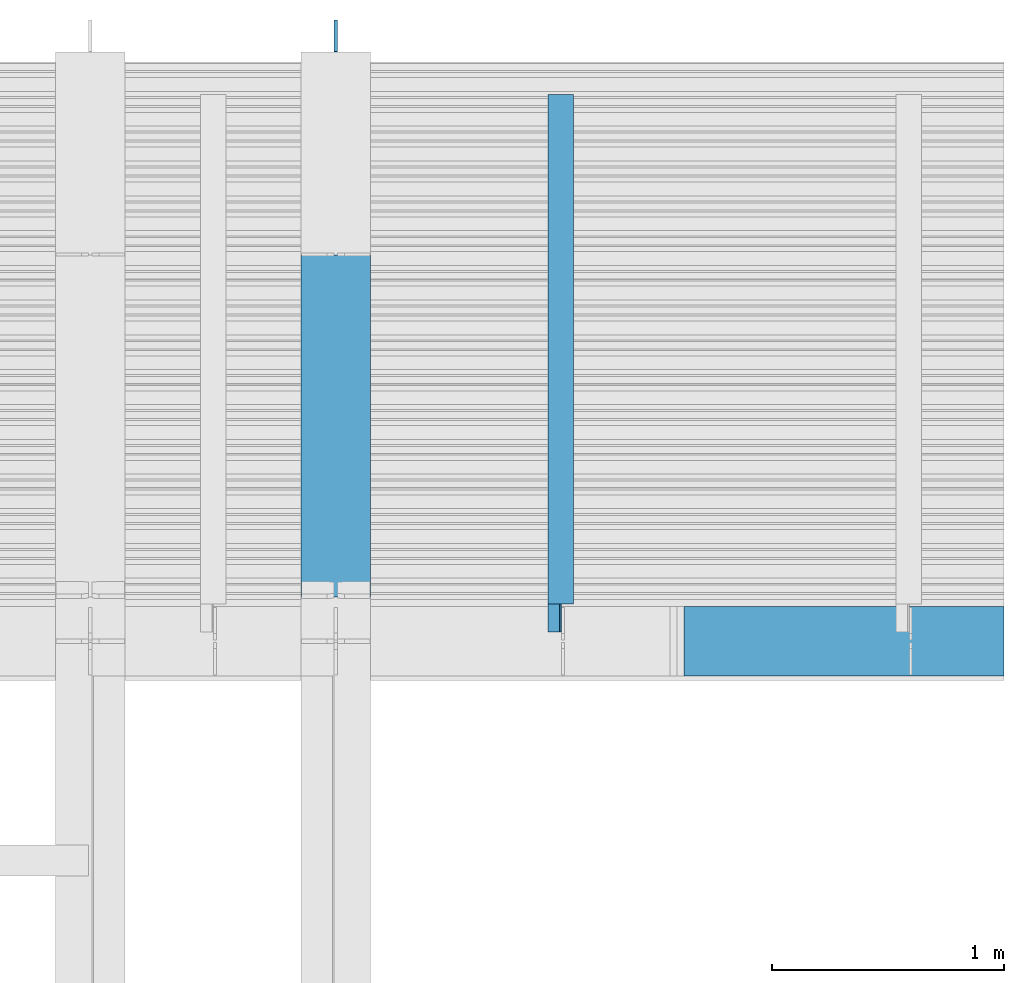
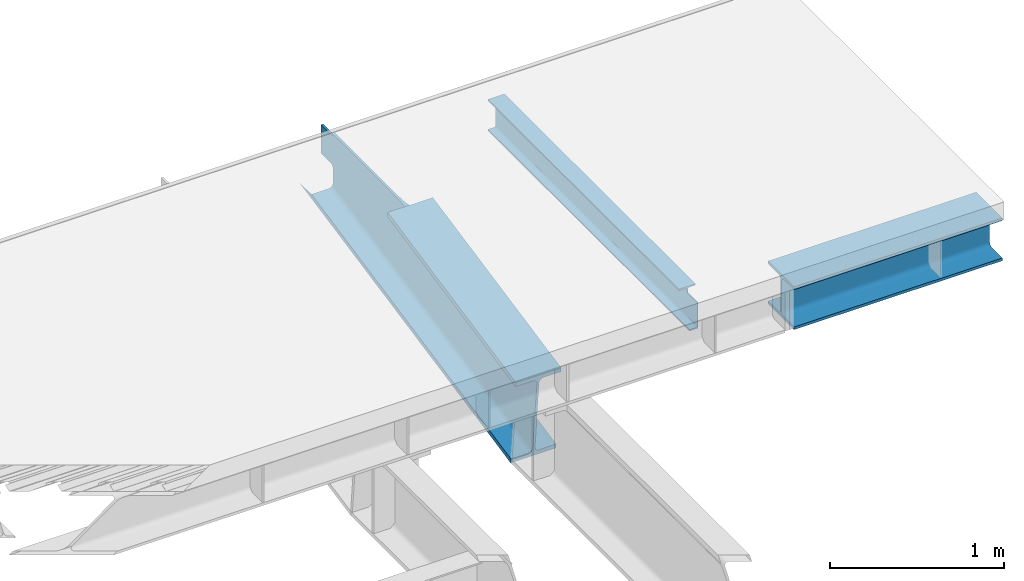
# One storey, part 11 of 12: 3 beams.
"""IFC2X3 building model written with IfcOpenShell, lengths in millimetres."""

from ifc_helpers import new_model, entity, si_unit, converted_unit, derived_unit, direction, frame, origin_with_axes, place, context, subcontext, project, spatial, faceted_brep, type_object, element, save


model = new_model("IFC2X3")

# Units and contexts
model_context = context("Model", 3, precision=0.01, world=frame((0.0, 4.29681676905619e-09, 0.0)), true_north=direction((4.01073788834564e-13, 1.0)))
plan_context = context("Plan", 3, precision=0.01, world=frame((0.0, 4.29681676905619e-09, 0.0)), true_north=direction((4.01073788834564e-13, 1.0)))
body_context = subcontext(model_context, "Body", "Model", "MODEL_VIEW")
ifc_project = project(units=[converted_unit("PLANEANGLEUNIT", "DEGREE", entity("IfcPositiveLengthMeasure", 0.0174532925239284), si_unit("PLANEANGLEUNIT", "RADIAN"), dimensions=[0, 0, 0, 0, 0, 0, 0]), si_unit("AREAUNIT", "SQUARE_METRE"), si_unit("LENGTHUNIT", "METRE", prefix="MILLI"), si_unit("MASSUNIT", "GRAM", prefix="KILO"), si_unit("POWERUNIT", "WATT"), si_unit("PRESSUREUNIT", "PASCAL"), si_unit("FORCEUNIT", "NEWTON", prefix="KILO"), si_unit("ELECTRICVOLTAGEUNIT", "VOLT"), si_unit("ELECTRICCURRENTUNIT", "AMPERE"), si_unit("THERMODYNAMICTEMPERATUREUNIT", "DEGREE_CELSIUS"), si_unit("TIMEUNIT", "SECOND"), si_unit("VOLUMEUNIT", "CUBIC_METRE"), derived_unit("LINEARVELOCITYUNIT", [(si_unit("LENGTHUNIT", "METRE"), 1), (si_unit("TIMEUNIT", "SECOND"), -1)]), derived_unit("VOLUMETRICFLOWRATEUNIT", [(si_unit("VOLUMEUNIT", "CUBIC_METRE"), 1), (si_unit("TIMEUNIT", "SECOND"), -1)]), derived_unit("THERMALTRANSMITTANCEUNIT", [(si_unit("POWERUNIT", "WATT"), 1), (si_unit("THERMODYNAMICTEMPERATUREUNIT", "KELVIN"), -1), (si_unit("AREAUNIT", "SQUARE_METRE"), -1)]), derived_unit("SOUNDPRESSUREUNIT", [(si_unit("PRESSUREUNIT", "PASCAL"), 1)])], contexts=[model_context, plan_context])

# Site, building, storey
site_placement = place(None, frame((0.0, -4.29681676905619e-09, 0.0), z_axis=(0.0, 0.0, 1.0), x_axis=(1.0, 0.0, 0.0)))
site = spatial("IfcSite", under=ifc_project, at=site_placement, Name="Gardermoen", CompositionType="ELEMENT")
building_placement = place(site_placement, frame((0.0, 4.29681676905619e-09, 0.0), z_axis=(0.0, 0.0, 1.0), x_axis=(1.0, 0.0, 0.0)))
building = spatial("IfcBuilding", under=site, at=building_placement, Name="TH", CompositionType="ELEMENT")
storey_placement = place(building_placement, origin_with_axes())
storey = spatial("IfcBuildingStorey", under=building, at=storey_placement, Name="D", CompositionType="ELEMENT", Elevation=0.0)

# Beams
beam_type_1 = type_object("IfcBeamType", Name="HEB300", PredefinedType="NOTDEFINED")
beam_1_placement = place(storey_placement, frame((909030.000000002, 484999.995625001, 209890.0), z_axis=(0.0, 0.0, 1.0), x_axis=(1.0, 0.0, 0.0)))
element("IfcBeam", 1, at=beam_1_placement, inside=storey, type_object=beam_type_1, Name="STÅLBJELKE", ObjectType="HEB300", context=body_context, shape_type="Brep", body=[
    faceted_brep([(1380.58484179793, -150.0, -150.0), (1380.58484179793, 150.0, -150.0), (0.0, 150.0, -150.0), (0.0, -150.0, -150.0), (1380.58484179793, -150.0, -131.0), (0.0, -150.0, -131.0), (1380.58484179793, -32.5, -131.0), (0.0, -32.5, -131.0), (1380.58484179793, -27.2325613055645, -130.481202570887), (0.0, -27.2325613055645, -130.481202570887), (1380.58484179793, -22.1675473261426, -128.944747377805), (0.0, -22.1675473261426, -128.944747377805), (1380.58484179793, -17.4996037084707, -126.449679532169), (0.0, -17.4996037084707, -126.449679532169), (1380.58484179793, -13.4081169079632, -123.091883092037), (0.0, -13.4081169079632, -123.091883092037), (1380.58484179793, -10.0503204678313, -119.000396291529), (0.0, -10.0503204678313, -119.000396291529), (1380.58484179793, -7.55525262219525, -114.332452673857), (0.0, -7.55525262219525, -114.332452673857), (1380.58484179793, -6.01879742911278, -109.267438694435), (0.0, -6.01879742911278, -109.267438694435), (1380.58484179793, -5.5, -104.0), (0.0, -5.5, -104.0), (1380.58484179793, -5.5, 104.0), (0.0, -5.5, 104.0), (1380.58484179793, -6.01879742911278, 109.267438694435), (0.0, -6.01879742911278, 109.267438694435), (1380.58484179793, -7.55525262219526, 114.332452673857), (0.0, -7.55525262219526, 114.332452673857), (1380.58484179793, -10.0503204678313, 119.000396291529), (0.0, -10.0503204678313, 119.000396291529), (1380.58484179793, -13.4081169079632, 123.091883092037), (0.0, -13.4081169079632, 123.091883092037), (1380.58484179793, -17.4996037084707, 126.449679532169), (0.0, -17.4996037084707, 126.449679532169), (1380.58484179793, -22.1675473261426, 128.944747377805), (0.0, -22.1675473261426, 128.944747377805), (1380.58484179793, -27.2325613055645, 130.481202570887), (0.0, -27.2325613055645, 130.481202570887), (1380.58484179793, -32.5, 131.0), (0.0, -32.5, 131.0), (1380.58484179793, -150.0, 131.0), (0.0, -150.0, 131.0), (1380.58484179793, -150.0, 150.0), (0.0, -150.0, 150.0), (1380.58484179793, 150.0, 150.0), (0.0, 150.0, 150.0), (1380.58484179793, 150.0, 131.0), (0.0, 150.0, 131.0), (1380.58484179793, 32.5, 131.0), (0.0, 32.5, 131.0), (1380.58484179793, 27.2325613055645, 130.481202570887), (0.0, 27.2325613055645, 130.481202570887), (1380.58484179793, 22.1675473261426, 128.944747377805), (0.0, 22.1675473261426, 128.944747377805), (1380.58484179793, 17.4996037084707, 126.449679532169), (0.0, 17.4996037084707, 126.449679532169), (1380.58484179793, 13.4081169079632, 123.091883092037), (0.0, 13.4081169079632, 123.091883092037), (1380.58484179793, 10.0503204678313, 119.000396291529), (0.0, 10.0503204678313, 119.000396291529), (1380.58484179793, 7.55525262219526, 114.332452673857), (0.0, 7.55525262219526, 114.332452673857), (1380.58484179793, 6.01879742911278, 109.267438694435), (0.0, 6.01879742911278, 109.267438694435), (1380.58484179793, 5.5, 104.0), (0.0, 5.5, 104.0), (1380.58484179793, 5.5, -104.0), (0.0, 5.5, -104.0), (1380.58484179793, 6.01879742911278, -109.267438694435), (0.0, 6.01879742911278, -109.267438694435), (1380.58484179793, 7.55525262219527, -114.332452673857), (0.0, 7.55525262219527, -114.332452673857), (1380.58484179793, 10.0503204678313, -119.000396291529), (0.0, 10.0503204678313, -119.000396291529), (1380.58484179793, 13.4081169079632, -123.091883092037), (0.0, 13.4081169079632, -123.091883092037), (1380.58484179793, 17.4996037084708, -126.449679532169), (0.0, 17.4996037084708, -126.449679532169), (1380.58484179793, 22.1675473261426, -128.944747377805), (0.0, 22.1675473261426, -128.944747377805), (1380.58484179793, 27.2325613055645, -130.481202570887), (0.0, 27.2325613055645, -130.481202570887), (1380.58484179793, 32.5, -131.0), (0.0, 32.5, -131.0), (1380.58484179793, 150.0, -131.0), (0.0, 150.0, -131.0)], [[[0, 1, 2, 3]], [[4, 0, 3, 5]], [[6, 4, 5, 7]], [[8, 6, 7, 9]], [[10, 8, 9, 11]], [[12, 10, 11, 13]], [[14, 12, 13, 15]], [[16, 14, 15, 17]], [[18, 16, 17, 19]], [[20, 18, 19, 21]], [[22, 20, 21, 23]], [[24, 22, 23, 25]], [[26, 24, 25, 27]], [[28, 26, 27, 29]], [[30, 28, 29, 31]], [[32, 30, 31, 33]], [[34, 32, 33, 35]], [[36, 34, 35, 37]], [[38, 36, 37, 39]], [[40, 38, 39, 41]], [[42, 40, 41, 43]], [[44, 42, 43, 45]], [[46, 44, 45, 47]], [[48, 46, 47, 49]], [[50, 48, 49, 51]], [[52, 50, 51, 53]], [[54, 52, 53, 55]], [[56, 54, 55, 57]], [[58, 56, 57, 59]], [[60, 58, 59, 61]], [[62, 60, 61, 63]], [[64, 62, 63, 65]], [[66, 64, 65, 67]], [[68, 66, 67, 69]], [[70, 68, 69, 71]], [[72, 70, 71, 73]], [[74, 72, 73, 75]], [[76, 74, 75, 77]], [[78, 76, 77, 79]], [[80, 78, 79, 81]], [[82, 80, 81, 83]], [[84, 82, 83, 85]], [[86, 84, 85, 87]], [[1, 86, 87, 2]], [[3, 2, 87, 85, 83, 81, 79, 77, 75, 73, 71, 69, 67, 65, 63, 61, 59, 57, 55, 53, 51, 49, 47, 45, 43, 41, 39, 37, 35, 33, 31, 29, 27, 25, 23, 21, 19, 17, 15, 13, 11, 9, 7, 5]], [[4, 6, 8, 10, 12, 14, 16, 18, 20, 22, 24, 26, 28, 30, 32, 34, 36, 38, 40, 42, 44, 46, 48, 50, 52, 54, 56, 58, 60, 62, 64, 66, 68, 70, 72, 74, 76, 78, 80, 82, 84, 86, 1, 0]]], orient=[[False], [False], [False], [False], [False], [False], [False], [False], [False], [False], [False], [False], [False], [False], [False], [False], [False], [False], [False], [False], [False], [False], [False], [False], [False], [False], [False], [False], [False], [False], [False], [False], [False], [False], [False], [False], [False], [False], [False], [False], [False], [False], [False], [False], [False], [False]]),
])
beam_type_2 = type_object("IfcBeamType", Name="HEB600", PredefinedType="NOTDEFINED")
beam_2_placement = place(storey_placement, frame((907530.000000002, 485190.189690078, 209433.977425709), z_axis=(0.0, -0.199367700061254, 0.979924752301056), x_axis=(0.0, 0.979924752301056, 0.199367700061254)))
element("IfcBeam", 2, at=beam_2_placement, inside=storey, type_object=beam_type_2, Name="STÅLBJELKE", ObjectType="HEB600", context=body_context, shape_type="Brep", body=[
    faceted_brep([(-1.86077646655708e-10, -150.000000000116, -300.0), (2336.90976963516, -150.000000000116, -300.0), (2336.90976963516, 149.999999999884, -300.0), (-1.86077646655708e-10, 149.999999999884, -300.0), (3.02083751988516, -150.000000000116, -270.0), (2343.0132156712, -150.000000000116, -270.0), (2336.90976963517, -150.000000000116, -299.99940369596), (2477.73692631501, -150.000000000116, -299.999403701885), (3.02083751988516, -34.7500000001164, -270.0), (2343.0132156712, -34.7500000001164, -270.0), (3.07307761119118, -29.4825613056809, -269.481202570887), (2343.11876617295, -29.4825613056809, -269.481202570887), (3.2277903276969, -24.417547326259, -267.944747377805), (2343.4313614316, -24.417547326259, -267.944747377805), (3.47903014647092, -19.7496037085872, -265.449679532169), (2343.93898858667, -19.7496037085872, -265.449679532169), (3.81714206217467, -15.6581169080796, -262.091883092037), (2344.62213981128, -15.6581169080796, -262.091883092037), (4.22913262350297, -12.3003204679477, -258.000396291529), (2345.45456198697, -12.3003204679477, -258.000396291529), (4.69916926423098, -9.80525262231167, -253.332452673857), (2346.40426559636, -9.80525262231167, -253.332452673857), (5.20918873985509, -8.2687974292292, -248.267438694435), (2347.43475406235, -8.2687974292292, -248.267438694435), (5.73959128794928, -7.75000000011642, -243.0), (2348.50642629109, -7.75000000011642, -243.0), (54.6771591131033, -7.75000000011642, 243.0), (1694.86260503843, -7.75000000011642, 243.0), (2417.47329829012, -7.7500000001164, 95.9833689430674), (2417.0786473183, -7.7500000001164, 92.5195494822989), (2417.2914778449, -7.7500000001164, 89.0398227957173), (2418.10532312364, -7.7500000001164, 85.6499185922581), (2419.49545488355, -7.7500000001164, 82.4528373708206), (2421.41963468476, -7.7500000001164, 79.5457208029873), (2423.81939731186, -7.7500000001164, 77.0169001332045), (2426.62182720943, -7.7500000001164, 74.9432122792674), (2429.74177398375, -7.7500000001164, 73.3876651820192), (2433.08443965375, -7.7500000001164, 72.3975233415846), (2548.71555585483, -7.7500000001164, 48.8721334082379), (2508.84201733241, -7.75000000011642, -147.112809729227), (2393.210926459, -7.75000000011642, -123.587382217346), (2390.0959551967, -7.75000000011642, -123.204911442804), (2386.95950279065, -7.75000000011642, -123.314438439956), (2383.87879912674, -7.75000000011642, -123.913266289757), (2380.92970137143, -7.75000000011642, -124.986649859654), (2378.18482611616, -7.75000000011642, -126.508158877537), (2375.71176131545, -7.75000000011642, -128.440328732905), (2373.57140204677, -7.75000000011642, -130.735582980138), (2371.81645107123, -7.75000000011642, -133.337404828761), (2370.49012111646, -7.75000000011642, -136.181728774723), (2369.62507083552, -7.75000000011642, -139.198518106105), (55.2075616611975, -8.2687974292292, 248.267438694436), (1668.97228569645, -8.26879742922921, 248.267438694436), (55.7175811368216, -9.80525262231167, 253.332452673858), (1644.07691680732, -9.80525262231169, 253.332452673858), (56.1876177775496, -12.3003204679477, 258.000396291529), (1621.13321343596, -12.3003204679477, 258.000396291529), (56.5996083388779, -15.6581169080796, 262.091883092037), (1601.02288923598, -15.6581169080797, 262.091883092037), (56.9377202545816, -19.7496037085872, 265.449679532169), (1584.51877323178, -19.7496037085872, 265.449679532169), (57.1889600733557, -24.417547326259, 267.944747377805), (1572.25510798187, -24.417547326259, 267.944747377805), (57.3436727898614, -29.482561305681, 269.481202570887), (1564.70318020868, -29.482561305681, 269.481202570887), (57.3959128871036, -34.7500005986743, 270.000000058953), (1562.1532028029, -34.7500071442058, 270.000000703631), (57.3959128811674, -150.000000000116, 270.0), (1562.1532028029, -150.000000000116, 270.0), (1562.1532028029, -34.7500000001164, 270.0), (57.3959128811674, -34.7500000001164, 270.0), (60.4167504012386, -150.000000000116, 300.0), (1565.17404025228, -150.000000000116, 300.0), (1562.1532028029, -150.000000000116, 270.000000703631), (57.3959128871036, -150.000000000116, 270.000000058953), (60.4167504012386, 149.999999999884, 300.0), (1565.17404025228, 149.999999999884, 300.0), (57.3959128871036, 149.999999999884, 270.000000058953), (1562.1532028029, 149.999999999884, 270.000000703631), (57.3959128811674, 34.7499999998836, 270.0), (1562.1532028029, 34.7499999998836, 270.0), (1562.1532028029, 149.999999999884, 270.0), (57.3959128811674, 149.999999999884, 270.0), (57.3436727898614, 29.4825613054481, 269.481202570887), (1564.70318020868, 29.4825613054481, 269.481202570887), (1562.1532028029, 34.7500071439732, 270.000000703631), (57.3959128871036, 34.7500005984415, 270.000000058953), (57.1889600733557, 24.4175473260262, 267.944747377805), (1572.25510798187, 24.4175473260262, 267.944747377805), (56.9377202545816, 19.7496037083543, 265.449679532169), (1584.51877323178, 19.7496037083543, 265.449679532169), (56.5996083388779, 15.6581169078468, 262.091883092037), (1601.0228901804, 15.6581169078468, 262.091883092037), (56.1876177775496, 12.3003204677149, 258.000396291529), (1621.13321343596, 12.3003204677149, 258.000396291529), (55.7175811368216, 9.80525262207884, 253.332452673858), (1644.07691680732, 9.80525262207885, 253.332452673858), (55.2075616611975, 8.26879742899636, 248.267438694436), (1668.97228569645, 8.26879742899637, 248.267438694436), (54.6771591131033, 7.74999999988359, 243.0), (1694.86260503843, 7.7499999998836, 243.0), (5.73959128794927, 7.74999999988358, -243.0), (2348.50642629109, 7.74999999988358, -243.0), (2369.62507083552, 7.74999999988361, -139.198518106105), (2370.49012111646, 7.74999999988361, -136.181728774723), (2371.81645107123, 7.74999999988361, -133.337404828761), (2373.57140204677, 7.74999999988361, -130.735582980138), (2375.71176131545, 7.74999999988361, -128.440328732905), (2378.18482611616, 7.74999999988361, -126.508158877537), (2380.92970137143, 7.74999999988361, -124.986649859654), (2383.87879912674, 7.74999999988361, -123.913266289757), (2386.95950279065, 7.74999999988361, -123.314438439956), (2390.0959551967, 7.74999999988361, -123.204911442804), (2393.210926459, 7.74999999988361, -123.587382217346), (2508.84201733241, 7.74999999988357, -147.112809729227), (2548.71555585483, 7.7499999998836, 48.8721334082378), (2433.08443965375, 7.7499999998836, 72.3975233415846), (2429.74177398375, 7.7499999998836, 73.3876651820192), (2426.62182720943, 7.7499999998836, 74.9432122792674), (2423.81939731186, 7.7499999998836, 77.0169001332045), (2421.41963468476, 7.7499999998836, 79.5457208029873), (2419.49545488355, 7.7499999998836, 82.4528373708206), (2418.10532312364, 7.7499999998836, 85.6499185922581), (2417.2914778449, 7.7499999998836, 89.0398227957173), (2417.0786473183, 7.7499999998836, 92.5195494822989), (2417.47329829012, 7.74999999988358, 95.9833689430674), (5.20918873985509, 8.26879742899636, -248.267438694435), (2347.43475406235, 8.26879742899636, -248.267438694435), (4.69916926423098, 9.80525262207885, -253.332452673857), (2346.40426559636, 9.80525262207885, -253.332452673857), (4.22913262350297, 12.3003204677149, -258.000396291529), (2345.45456198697, 12.3003204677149, -258.000396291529), (3.81714206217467, 15.6581169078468, -262.091883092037), (2344.62213981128, 15.6581169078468, -262.091883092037), (3.47903014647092, 19.7496037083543, -265.449679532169), (2343.93898858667, 19.7496037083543, -265.449679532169), (3.2277903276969, 24.4175473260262, -267.944747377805), (2343.4313614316, 24.4175473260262, -267.944747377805), (3.07307761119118, 29.4825613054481, -269.481202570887), (2343.11876617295, 29.4825613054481, -269.481202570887), (3.02083751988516, 34.7499999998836, -270.0), (2343.0132156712, 34.7499999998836, -270.0), (3.02083751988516, 149.999999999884, -270.0), (2343.0132156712, 149.999999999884, -270.0), (2477.73680499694, 149.999999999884, -300.0), (1562.15320273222, 149.999999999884, 270.0), (1562.15320273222, -150.000000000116, 270.0), (2417.47329911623, -7.75000000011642, 95.983373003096), (1694.86260826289, -7.75000000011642, 243.0), (1668.97228829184, -8.2687974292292, 248.267438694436), (1644.07691879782, -9.80525262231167, 253.332452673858), (1621.13321486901, -12.3003204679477, 258.000396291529), (1601.0228901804, -15.6581169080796, 262.091883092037), (1562.15320626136, -34.7500000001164, 270.0), (1562.15320626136, 34.7499999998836, 270.0), (1621.13321486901, 12.3003204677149, 258.000396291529), (1644.07691879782, 9.80525262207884, 253.332452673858), (1668.97228829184, 8.26879742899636, 248.267438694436), (1694.86260826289, 7.74999999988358, 243.0), (2417.47329911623, 7.74999999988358, 95.983373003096), (2336.90976963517, 149.999999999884, -299.99940369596)], [[[0, 1, 2, 3]], [[4, 5, 6, 7, 0]], [[8, 9, 5, 4]], [[10, 11, 9, 8]], [[12, 13, 11, 10]], [[14, 15, 13, 12]], [[16, 17, 15, 14]], [[18, 19, 17, 16]], [[20, 21, 19, 18]], [[22, 23, 21, 20]], [[24, 25, 23, 22]], [[26, 27, 28, 29, 30, 31, 32, 33, 34, 35, 36, 37, 38, 39, 40, 41, 42, 43, 44, 45, 46, 47, 48, 49, 50, 25, 24]], [[51, 52, 27, 26]], [[53, 54, 52, 51]], [[55, 56, 54, 53]], [[57, 58, 56, 55]], [[59, 60, 58, 57]], [[61, 62, 60, 59]], [[63, 64, 62, 61]], [[65, 66, 64, 63]], [[67, 68, 69, 70]], [[71, 72, 73, 74]], [[75, 76, 72, 71]], [[77, 78, 76, 75]], [[79, 80, 81, 82]], [[83, 84, 85, 86]], [[87, 88, 84, 83]], [[89, 90, 88, 87]], [[91, 92, 90, 89]], [[93, 94, 92, 91]], [[95, 96, 94, 93]], [[97, 98, 96, 95]], [[99, 100, 98, 97]], [[101, 102, 103, 104, 105, 106, 107, 108, 109, 110, 111, 112, 113, 114, 115, 116, 117, 118, 119, 120, 121, 122, 123, 124, 125, 100, 99]], [[126, 127, 102, 101]], [[128, 129, 127, 126]], [[130, 131, 129, 128]], [[132, 133, 131, 130]], [[134, 135, 133, 132]], [[136, 137, 135, 134]], [[138, 139, 137, 136]], [[140, 141, 139, 138]], [[142, 143, 141, 140]], [[3, 2, 144, 143, 142]], [[125, 124, 29, 28]], [[124, 123, 30, 29]], [[123, 122, 31, 30]], [[122, 121, 32, 31]], [[121, 120, 33, 32]], [[120, 119, 34, 33]], [[119, 118, 35, 34]], [[118, 117, 36, 35]], [[117, 116, 37, 36]], [[38, 37, 116, 115]], [[76, 145, 146, 72]], [[147, 148, 149, 150, 151, 152, 60, 62, 64, 153, 154, 84, 88, 90, 92, 155, 156, 157, 158, 159]], [[6, 5, 9, 11, 13, 15, 17, 19, 21, 23, 25, 50, 103, 102, 127, 129, 131, 133, 135, 137, 139, 141, 143, 160]], [[50, 49, 104, 103]], [[49, 48, 105, 104]], [[48, 47, 106, 105]], [[47, 46, 107, 106]], [[46, 45, 108, 107]], [[45, 44, 109, 108]], [[44, 43, 110, 109]], [[43, 42, 111, 110]], [[42, 41, 112, 111]], [[41, 40, 113, 112]], [[114, 113, 40, 39]], [[115, 114, 39, 38]], [[142, 140, 138, 136, 134, 132, 130, 128, 126, 101, 99, 97, 95, 93, 91, 89, 87, 83, 79, 77, 75, 71, 67, 65, 63, 61, 59, 57, 55, 53, 51, 26, 24, 22, 20, 18, 16, 14, 12, 10, 8, 4, 0, 3]]], orient=[[False], [False], [False], [False], [False], [False], [False], [False], [False], [False], [False], [False], [False], [False], [False], [False], [False], [False], [False], [False], [False], [False], [False], [False], [False], [False], [False], [False], [False], [False], [False], [False], [False], [False], [False], [False], [False], [False], [False], [False], [False], [False], [False], [False], [False], [False], [False], [False], [False], [False], [False], [False], [False], [False], [False], [False], [False], [False], [False], [False], [False], [False], [False], [False], [False], [False], [False], [False], [False], [False]]),
])
beam_type_3 = type_object("IfcBeamType", Name="IPE220", PredefinedType="NOTDEFINED")
beam_3_placement = place(storey_placement, frame((908499.999781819, 484999.995625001, 209930.0), z_axis=(0.0, 0.0, 1.0), x_axis=(0.0, 1.0, 0.0)))
element("IfcBeam", 3, at=beam_3_placement, inside=storey, type_object=beam_type_3, Name="STÅLBJELKE", ObjectType="IPE220", context=body_context, shape_type="Brep", body=[
    faceted_brep([(2357.65437500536, -55.0, -110.0), (2357.65437500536, 55.0, -110.0), (39.9999999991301, 55.0, -110.0), (39.9999999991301, -2.95000004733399, -110.0), (159.99999999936, -2.95000004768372, -110.0), (159.99999999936, -55.0, -110.0), (2357.65437500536, -55.0, -100.800000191), (159.99999999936, -55.0, -100.800000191), (2357.65437500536, -14.9500000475, -100.800000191), (159.99999999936, -14.9500000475, -100.800000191), (2357.65437500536, -12.6089161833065, -100.569423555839), (159.99999999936, -12.6089161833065, -100.569423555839), (2357.65437500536, -10.3577988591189, -99.8865545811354), (159.99999999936, -10.3577988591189, -99.8865545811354), (2357.65437500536, -8.28315725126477, -98.7776355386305), (159.99999999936, -8.28315725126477, -98.7776355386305), (2357.65437500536, -6.46471867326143, -97.2852815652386), (159.99999999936, -6.46471867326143, -97.2852815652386), (2357.65437500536, -4.97236469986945, -95.4668429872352), (159.99999999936, -4.97236469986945, -95.4668429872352), (2357.65437500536, -3.86344565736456, -93.3922013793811), (159.99999999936, -3.86344565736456, -93.3922013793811), (2357.65437500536, -3.18057668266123, -91.1410840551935), (159.99999999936, -3.18057668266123, -91.1410840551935), (2357.65437500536, -2.9500000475, -88.800000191), (159.99999999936, -2.96969830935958, -89.0), (39.9999999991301, -2.96969830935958, -89.0), (39.9999999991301, -2.9500000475, -88.800000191), (2357.65437500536, -2.9500000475, 88.800000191), (39.9999999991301, -2.9500000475, 70.0), (149.999999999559, -2.9500000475, 69.9999999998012), (151.564344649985, -2.9500000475, 70.1231165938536), (153.090169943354, -2.9500000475, 70.4894348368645), (154.539904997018, -2.9500000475, 71.0899347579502), (155.877852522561, -2.9500000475, 71.9098300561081), (157.071067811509, -2.9500000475, 72.9289321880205), (158.090169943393, -2.9500000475, 74.1221474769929), (158.910065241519, -2.9500000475, 75.4600950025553), (159.510565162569, -2.9500000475, 76.9098300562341), (159.876883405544, -2.9500000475, 78.435655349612), (159.999999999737, -2.9500000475, 79.999999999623), (159.999999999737, -2.9500000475, 88.800000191), (2357.65437500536, -3.18057668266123, 91.1410840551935), (159.999999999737, -3.18057668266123, 91.1410840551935), (2357.65437500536, -3.86344565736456, 93.3922013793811), (159.999999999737, -3.86344565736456, 93.3922013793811), (2357.65437500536, -4.97236469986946, 95.4668429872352), (159.999999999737, -4.97236469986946, 95.4668429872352), (2357.65437500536, -6.46471867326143, 97.2852815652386), (159.999999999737, -6.46471867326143, 97.2852815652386), (2357.65437500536, -8.28315725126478, 98.7776355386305), (159.999999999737, -8.28315725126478, 98.7776355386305), (2357.65437500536, -10.3577988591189, 99.8865545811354), (159.999999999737, -10.3577988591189, 99.8865545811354), (2357.65437500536, -12.6089161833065, 100.569423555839), (159.999999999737, -12.6089161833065, 100.569423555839), (2357.65437500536, -14.9500000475, 100.800000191), (159.999999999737, -14.9500000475, 100.800000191), (2357.65437500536, -55.0, 100.800000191), (159.999999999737, -55.0, 100.800000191), (2357.65437500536, -55.0, 110.0), (159.999999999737, -55.0, 110.0), (2357.65437500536, 55.0, 110.0), (159.999999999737, 55.0, 110.0), (2357.65437500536, 55.0, 100.800000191), (159.999999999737, 55.0, 100.800000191), (2357.65437500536, 14.9500000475, 100.800000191), (159.999999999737, 14.9500000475, 100.800000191), (2357.65437500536, 12.6089161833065, 100.569423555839), (159.999999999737, 12.6089161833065, 100.569423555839), (2357.65437500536, 10.3577988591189, 99.8865545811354), (159.999999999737, 10.3577988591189, 99.8865545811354), (2357.65437500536, 8.28315725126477, 98.7776355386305), (159.999999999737, 8.28315725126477, 98.7776355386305), (2357.65437500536, 6.46471867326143, 97.2852815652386), (159.999999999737, 6.46471867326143, 97.2852815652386), (2357.65437500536, 4.97236469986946, 95.4668429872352), (159.999999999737, 4.97236469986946, 95.4668429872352), (2357.65437500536, 3.86344565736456, 93.3922013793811), (159.999999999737, 3.86344565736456, 93.3922013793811), (2357.65437500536, 3.18057668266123, 91.1410840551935), (159.999999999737, 3.18057668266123, 91.1410840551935), (2357.65437500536, 2.9500000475, 88.800000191), (159.999999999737, 2.9500000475, 88.800000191), (2357.65437500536, 2.9500000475, -88.800000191), (159.999999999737, 2.95000004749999, 79.999999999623), (159.876883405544, 2.95000004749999, 78.435655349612), (159.510565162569, 2.95000004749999, 76.9098300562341), (158.910065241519, 2.95000004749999, 75.4600950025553), (158.090169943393, 2.95000004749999, 74.1221474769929), (157.071067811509, 2.95000004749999, 72.9289321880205), (155.877852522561, 2.95000004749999, 71.9098300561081), (154.539904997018, 2.95000004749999, 71.0899347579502), (153.090169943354, 2.95000004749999, 70.4894348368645), (151.564344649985, 2.95000004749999, 70.1231165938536), (149.999999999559, 2.95000004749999, 69.9999999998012), (39.9999999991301, 2.9500000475, 70.0), (39.9999999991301, 2.9500000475, -88.800000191), (2357.65437500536, 3.18057668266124, -91.1410840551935), (39.9999999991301, 3.18057668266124, -91.1410840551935), (2357.65437500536, 3.86344565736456, -93.3922013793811), (39.9999999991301, 3.86344565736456, -93.3922013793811), (2357.65437500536, 4.97236469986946, -95.4668429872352), (39.9999999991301, 4.97236469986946, -95.4668429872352), (2357.65437500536, 6.46471867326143, -97.2852815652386), (39.9999999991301, 6.46471867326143, -97.2852815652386), (2357.65437500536, 8.28315725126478, -98.7776355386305), (39.9999999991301, 8.28315725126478, -98.7776355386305), (2357.65437500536, 10.3577988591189, -99.8865545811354), (39.9999999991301, 10.3577988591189, -99.8865545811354), (2357.65437500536, 12.6089161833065, -100.569423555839), (39.9999999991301, 12.6089161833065, -100.569423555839), (2357.65437500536, 14.9500000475, -100.800000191), (39.9999999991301, 14.9500000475, -100.800000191), (2357.65437500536, 55.0, -100.800000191), (39.9999999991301, 55.0, -100.800000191), (159.99999999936, -2.95000004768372, -89.0), (39.9999999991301, -2.95000004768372, -89.0)], [[[0, 1, 2, 3, 4, 5]], [[6, 0, 5, 7]], [[8, 6, 7, 9]], [[10, 8, 9, 11]], [[12, 10, 11, 13]], [[14, 12, 13, 15]], [[16, 14, 15, 17]], [[18, 16, 17, 19]], [[20, 18, 19, 21]], [[22, 20, 21, 23]], [[24, 22, 23, 25, 26, 27]], [[28, 24, 27, 29, 30, 31, 32, 33, 34, 35, 36, 37, 38, 39, 40, 41]], [[42, 28, 41, 43]], [[44, 42, 43, 45]], [[46, 44, 45, 47]], [[48, 46, 47, 49]], [[50, 48, 49, 51]], [[52, 50, 51, 53]], [[54, 52, 53, 55]], [[56, 54, 55, 57]], [[58, 56, 57, 59]], [[60, 58, 59, 61]], [[62, 60, 61, 63]], [[64, 62, 63, 65]], [[66, 64, 65, 67]], [[68, 66, 67, 69]], [[70, 68, 69, 71]], [[72, 70, 71, 73]], [[74, 72, 73, 75]], [[76, 74, 75, 77]], [[78, 76, 77, 79]], [[80, 78, 79, 81]], [[82, 80, 81, 83]], [[84, 82, 83, 85, 86, 87, 88, 89, 90, 91, 92, 93, 94, 95, 96, 97]], [[98, 84, 97, 99]], [[100, 98, 99, 101]], [[102, 100, 101, 103]], [[104, 102, 103, 105]], [[106, 104, 105, 107]], [[108, 106, 107, 109]], [[110, 108, 109, 111]], [[112, 110, 111, 113]], [[114, 112, 113, 115]], [[1, 114, 115, 2]], [[116, 25, 23, 21, 19, 17, 15, 13, 11, 9, 7, 5, 4]], [[116, 117, 26, 25]], [[116, 4, 3, 117]], [[30, 29, 96, 95]], [[95, 94, 31, 30]], [[94, 93, 32, 31]], [[93, 92, 33, 32]], [[92, 91, 34, 33]], [[91, 90, 35, 34]], [[90, 89, 36, 35]], [[89, 88, 37, 36]], [[88, 87, 38, 37]], [[87, 86, 39, 38]], [[86, 85, 40, 39]], [[85, 83, 81, 79, 77, 75, 73, 71, 69, 67, 65, 63, 61, 59, 57, 55, 53, 51, 49, 47, 45, 43, 41, 40]], [[26, 117, 3, 2, 115, 113, 111, 109, 107, 105, 103, 101, 99, 97, 96, 29, 27]], [[6, 8, 10, 12, 14, 16, 18, 20, 22, 24, 28, 42, 44, 46, 48, 50, 52, 54, 56, 58, 60, 62, 64, 66, 68, 70, 72, 74, 76, 78, 80, 82, 84, 98, 100, 102, 104, 106, 108, 110, 112, 114, 1, 0]]], orient=[[False], [False], [False], [False], [False], [False], [False], [False], [False], [False], [False], [False], [False], [False], [False], [False], [False], [False], [False], [False], [False], [False], [False], [False], [False], [False], [False], [False], [False], [False], [False], [False], [False], [False], [False], [False], [False], [False], [False], [False], [False], [False], [False], [False], [False], [False], [False], [False], [False], [False], [False], [False], [False], [False], [False], [False], [False], [False], [False], [False], [False]]),
])

save(model, "model.ifc")
